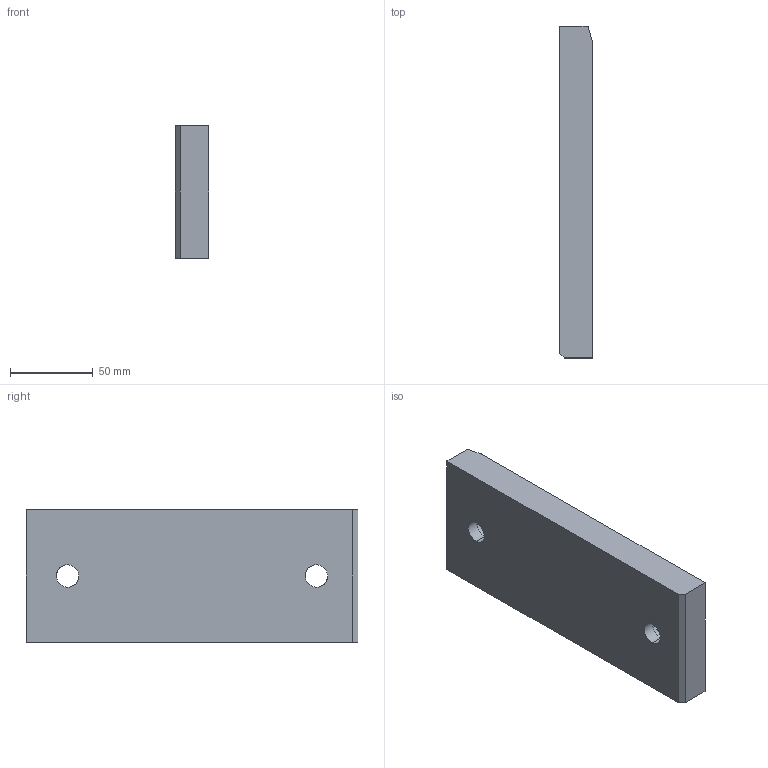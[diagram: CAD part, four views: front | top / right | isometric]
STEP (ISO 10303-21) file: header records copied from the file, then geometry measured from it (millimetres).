
FILE_DESCRIPTION(('CATIA V5 STEP Exchange'),'2;1');
FILE_NAME('C:\Users\borellobunino\Desktop\3D X SITO CF\A915\GSB_OILLESS_G22501080200\STEP-2.03\A915-80X200.stp','2019-07-14T12:58:30+00:00',('none'),('none'),'CATIA Version 5 Release 20 GA (IN-10)','CATIA V5 STEP AP203','none');
FILE_SCHEMA(('CONFIG_CONTROL_DESIGN'));
Length unit declared in the file: millimetre
Products named in the file (1): A915-80X200
Bounding box: 20 x 200 x 80 mm (x, y, z)
Volume: 308135.6 mm3; surface area: 44337.9 mm2
Topology: 1 solids, 1 shells, 23 faces, 73 edges, 54 vertices
Faces by surface type: plane 10, cylinder 9, torus 4
Entity records: 1057 total; most frequent: CARTESIAN_POINT 375, ORIENTED_EDGE 146, DIRECTION 103, EDGE_CURVE 73, AXIS2_PLACEMENT_3D 54, VERTEX_POINT 54, CIRCLE 30, EDGE_LOOP 29
